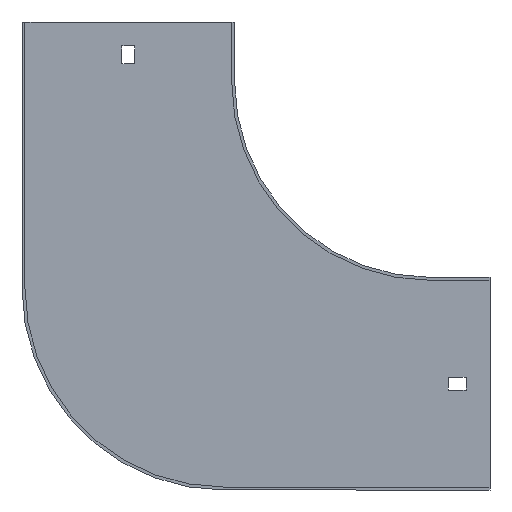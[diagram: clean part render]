
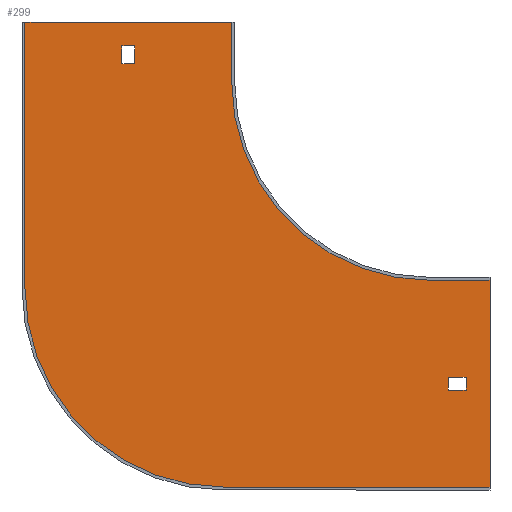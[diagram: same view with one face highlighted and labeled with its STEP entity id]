
A CAD part, front view. The second image highlights one B-rep face of the part: STEP entity #299.
In plain terms, the highlighted planar face has unit normal (0, -1, 0).
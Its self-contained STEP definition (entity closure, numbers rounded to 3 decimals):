
#2 = ORIENTED_EDGE ( 'NONE', *, *, #151, .F. ) ;
#3 = LINE ( 'NONE', #794, #754 ) ;
#6 = EDGE_CURVE ( 'NONE', #104, #600, #616, .T. ) ;
#7 = LINE ( 'NONE', #258, #357 ) ;
#12 = EDGE_CURVE ( 'NONE', #786, #611, #7, .T. ) ;
#13 = DIRECTION ( 'NONE',  ( 0., 1., 0. ) ) ;
#20 = CARTESIAN_POINT ( 'NONE',  ( -205.5, -1.5, 30. ) ) ;
#23 = CARTESIAN_POINT ( 'NONE',  ( -148.75, -1.5, 0. ) ) ;
#24 = CARTESIAN_POINT ( 'NONE',  ( 0., -1.5, -100. ) ) ;
#25 = VERTEX_POINT ( 'NONE', #389 ) ;
#26 = EDGE_CURVE ( 'NONE', #378, #834, #260, .T. ) ;
#33 = EDGE_CURVE ( 'NONE', #623, #25, #735, .T. ) ;
#39 = FACE_BOUND ( 'NONE', #781, .T. ) ;
#40 = EDGE_CURVE ( 'NONE', #25, #406, #3, .T. ) ;
#44 = ORIENTED_EDGE ( 'NONE', *, *, #272, .F. ) ;
#49 = ORIENTED_EDGE ( 'NONE', *, *, #262, .F. ) ;
#50 = DIRECTION ( 'NONE',  ( 0., 0., -1. ) ) ;
#55 = VECTOR ( 'NONE', #440, 1000. ) ;
#56 = LINE ( 'NONE', #607, #766 ) ;
#68 = AXIS2_PLACEMENT_3D ( 'NONE', #102, #509, #50 ) ;
#96 = CARTESIAN_POINT ( 'NONE',  ( -104., -1.5, -204. ) ) ;
#102 = CARTESIAN_POINT ( 'NONE',  ( 0., -1.5, 0. ) ) ;
#104 = VERTEX_POINT ( 'NONE', #555 ) ;
#108 = LINE ( 'NONE', #199, #824 ) ;
#111 = ORIENTED_EDGE ( 'NONE', *, *, #256, .T. ) ;
#133 = DIRECTION ( 'NONE',  ( -1., 0., 0. ) ) ;
#134 = CARTESIAN_POINT ( 'NONE',  ( -155.25, -1.5, 9. ) ) ;
#151 = EDGE_CURVE ( 'NONE', #251, #786, #595, .T. ) ;
#180 = LINE ( 'NONE', #188, #55 ) ;
#188 = CARTESIAN_POINT ( 'NONE',  ( 0., -1.5, 9. ) ) ;
#199 = CARTESIAN_POINT ( 'NONE',  ( -100., -1.5, 30. ) ) ;
#204 = CARTESIAN_POINT ( 'NONE',  ( 18., -1.5, -148.75 ) ) ;
#207 = DIRECTION ( 'NONE',  ( 0., 0., -1. ) ) ;
#208 = CARTESIAN_POINT ( 'NONE',  ( 0., -1.5, -148.75 ) ) ;
#211 = DIRECTION ( 'NONE',  ( 0., 0., -1. ) ) ;
#217 = EDGE_CURVE ( 'NONE', #611, #228, #629, .T. ) ;
#222 = VERTEX_POINT ( 'NONE', #829 ) ;
#226 = LINE ( 'NONE', #426, #454 ) ;
#228 = VERTEX_POINT ( 'NONE', #763 ) ;
#231 = EDGE_CURVE ( 'NONE', #600, #251, #226, .T. ) ;
#239 = DIRECTION ( 'NONE',  ( 0., 0., 1. ) ) ;
#242 = ORIENTED_EDGE ( 'NONE', *, *, #12, .F. ) ;
#243 = EDGE_CURVE ( 'NONE', #222, #757, #853, .T. ) ;
#244 = LINE ( 'NONE', #300, #476 ) ;
#251 = VERTEX_POINT ( 'NONE', #96 ) ;
#254 = DIRECTION ( 'NONE',  ( 1., 0., 0. ) ) ;
#256 = EDGE_CURVE ( 'NONE', #437, #378, #180, .T. ) ;
#258 = CARTESIAN_POINT ( 'NONE',  ( -204., -1.5, -104. ) ) ;
#260 = LINE ( 'NONE', #533, #301 ) ;
#262 = EDGE_CURVE ( 'NONE', #406, #791, #518, .T. ) ;
#270 = DIRECTION ( 'NONE',  ( 0., 0., 1. ) ) ;
#272 = EDGE_CURVE ( 'NONE', #791, #623, #244, .T. ) ;
#284 = VERTEX_POINT ( 'NONE', #842 ) ;
#286 = DIRECTION ( 'NONE',  ( 0., 0., -1. ) ) ;
#294 = CARTESIAN_POINT ( 'NONE',  ( -148.75, -1.5, 9. ) ) ;
#299 = ADVANCED_FACE ( 'NONE', ( #39, #789, #837 ), #446, .T. ) ;
#300 = CARTESIAN_POINT ( 'NONE',  ( 18., -1.5, 0. ) ) ;
#301 = VECTOR ( 'NONE', #530, 1000. ) ;
#310 = EDGE_CURVE ( 'NONE', #228, #222, #108, .T. ) ;
#327 = EDGE_CURVE ( 'NONE', #834, #284, #56, .T. ) ;
#349 = CARTESIAN_POINT ( 'NONE',  ( 9., -1.5, -155.25 ) ) ;
#357 = VECTOR ( 'NONE', #270, 1000. ) ;
#365 = DIRECTION ( 'NONE',  ( 0., -1., 0. ) ) ;
#367 = VECTOR ( 'NONE', #286, 1000. ) ;
#378 = VERTEX_POINT ( 'NONE', #134 ) ;
#388 = VECTOR ( 'NONE', #211, 1000. ) ;
#389 = CARTESIAN_POINT ( 'NONE',  ( 9., -1.5, -148.75 ) ) ;
#392 = ORIENTED_EDGE ( 'NONE', *, *, #6, .F. ) ;
#406 = VERTEX_POINT ( 'NONE', #349 ) ;
#414 = ORIENTED_EDGE ( 'NONE', *, *, #243, .F. ) ;
#426 = CARTESIAN_POINT ( 'NONE',  ( 30., -1.5, -204. ) ) ;
#427 = EDGE_CURVE ( 'NONE', #284, #437, #633, .T. ) ;
#437 = VERTEX_POINT ( 'NONE', #294 ) ;
#440 = DIRECTION ( 'NONE',  ( -1., 0., 0. ) ) ;
#446 = PLANE ( 'NONE',  #701 ) ;
#450 = ORIENTED_EDGE ( 'NONE', *, *, #427, .T. ) ;
#454 = VECTOR ( 'NONE', #697, 1000. ) ;
#462 = ORIENTED_EDGE ( 'NONE', *, *, #327, .T. ) ;
#467 = CARTESIAN_POINT ( 'NONE',  ( 30., -1.5, -204. ) ) ;
#476 = VECTOR ( 'NONE', #239, 1000. ) ;
#505 = ORIENTED_EDGE ( 'NONE', *, *, #231, .F. ) ;
#509 = DIRECTION ( 'NONE',  ( 0., -1., 0. ) ) ;
#518 = LINE ( 'NONE', #654, #520 ) ;
#520 = VECTOR ( 'NONE', #848, 1000. ) ;
#521 = ORIENTED_EDGE ( 'NONE', *, *, #217, .F. ) ;
#530 = DIRECTION ( 'NONE',  ( 0., 0., 1. ) ) ;
#533 = CARTESIAN_POINT ( 'NONE',  ( -155.25, -1.5, 0. ) ) ;
#541 = DIRECTION ( 'NONE',  ( 0., 0., -1. ) ) ;
#555 = CARTESIAN_POINT ( 'NONE',  ( 30., -1.5, -100. ) ) ;
#564 = VECTOR ( 'NONE', #692, 1000. ) ;
#568 = ORIENTED_EDGE ( 'NONE', *, *, #310, .F. ) ;
#592 = EDGE_LOOP ( 'NONE', ( #462, #450, #111, #731 ) ) ;
#595 = CIRCLE ( 'NONE', #716, 100. ) ;
#597 = EDGE_CURVE ( 'NONE', #757, #104, #598, .T. ) ;
#598 = LINE ( 'NONE', #857, #680 ) ;
#600 = VERTEX_POINT ( 'NONE', #467 ) ;
#607 = CARTESIAN_POINT ( 'NONE',  ( 0., -1.5, 18. ) ) ;
#611 = VERTEX_POINT ( 'NONE', #746 ) ;
#616 = LINE ( 'NONE', #860, #388 ) ;
#623 = VERTEX_POINT ( 'NONE', #204 ) ;
#629 = LINE ( 'NONE', #20, #564 ) ;
#633 = LINE ( 'NONE', #23, #367 ) ;
#640 = ORIENTED_EDGE ( 'NONE', *, *, #40, .F. ) ;
#654 = CARTESIAN_POINT ( 'NONE',  ( 0., -1.5, -155.25 ) ) ;
#656 = ORIENTED_EDGE ( 'NONE', *, *, #597, .F. ) ;
#680 = VECTOR ( 'NONE', #254, 1000. ) ;
#692 = DIRECTION ( 'NONE',  ( 1., 0., 0. ) ) ;
#693 = ORIENTED_EDGE ( 'NONE', *, *, #33, .F. ) ;
#697 = DIRECTION ( 'NONE',  ( -1., 0., 0. ) ) ;
#701 = AXIS2_PLACEMENT_3D ( 'NONE', #854, #365, #712 ) ;
#712 = DIRECTION ( 'NONE',  ( 0., 0., -1. ) ) ;
#716 = AXIS2_PLACEMENT_3D ( 'NONE', #748, #13, #821 ) ;
#730 = CARTESIAN_POINT ( 'NONE',  ( 18., -1.5, -155.25 ) ) ;
#731 = ORIENTED_EDGE ( 'NONE', *, *, #26, .T. ) ;
#735 = LINE ( 'NONE', #208, #822 ) ;
#746 = CARTESIAN_POINT ( 'NONE',  ( -204., -1.5, 30. ) ) ;
#748 = CARTESIAN_POINT ( 'NONE',  ( -104., -1.5, -104. ) ) ;
#754 = VECTOR ( 'NONE', #541, 1000. ) ;
#757 = VERTEX_POINT ( 'NONE', #24 ) ;
#760 = EDGE_LOOP ( 'NONE', ( #521, #242, #2, #505, #392, #656, #414, #568 ) ) ;
#763 = CARTESIAN_POINT ( 'NONE',  ( -100., -1.5, 30. ) ) ;
#766 = VECTOR ( 'NONE', #863, 1000. ) ;
#781 = EDGE_LOOP ( 'NONE', ( #693, #44, #49, #640 ) ) ;
#786 = VERTEX_POINT ( 'NONE', #846 ) ;
#789 = FACE_OUTER_BOUND ( 'NONE', #760, .T. ) ;
#791 = VERTEX_POINT ( 'NONE', #730 ) ;
#794 = CARTESIAN_POINT ( 'NONE',  ( 9., -1.5, 0. ) ) ;
#821 = DIRECTION ( 'NONE',  ( 0., 0., -1. ) ) ;
#822 = VECTOR ( 'NONE', #133, 1000. ) ;
#824 = VECTOR ( 'NONE', #207, 1000. ) ;
#829 = CARTESIAN_POINT ( 'NONE',  ( -100., -1.5, 0. ) ) ;
#834 = VERTEX_POINT ( 'NONE', #859 ) ;
#837 = FACE_BOUND ( 'NONE', #592, .T. ) ;
#842 = CARTESIAN_POINT ( 'NONE',  ( -148.75, -1.5, 18. ) ) ;
#846 = CARTESIAN_POINT ( 'NONE',  ( -204., -1.5, -104. ) ) ;
#848 = DIRECTION ( 'NONE',  ( 1., 0., 0. ) ) ;
#853 = CIRCLE ( 'NONE', #68, 100. ) ;
#854 = CARTESIAN_POINT ( 'NONE',  ( 0., -1.5, 0. ) ) ;
#857 = CARTESIAN_POINT ( 'NONE',  ( 0., -1.5, -100. ) ) ;
#859 = CARTESIAN_POINT ( 'NONE',  ( -155.25, -1.5, 18. ) ) ;
#860 = CARTESIAN_POINT ( 'NONE',  ( 30., -1.5, -98.5 ) ) ;
#863 = DIRECTION ( 'NONE',  ( 1., 0., 0. ) ) ;
